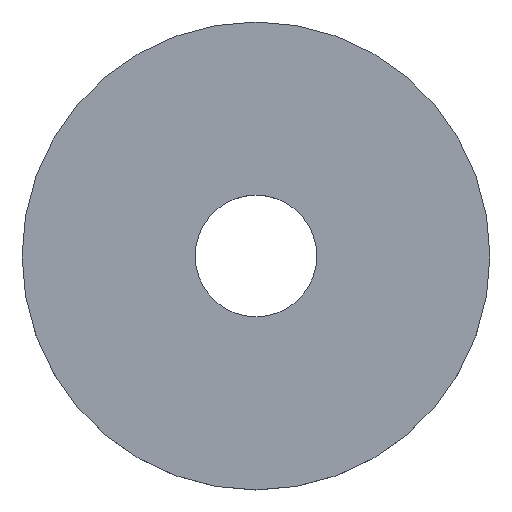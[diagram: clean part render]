
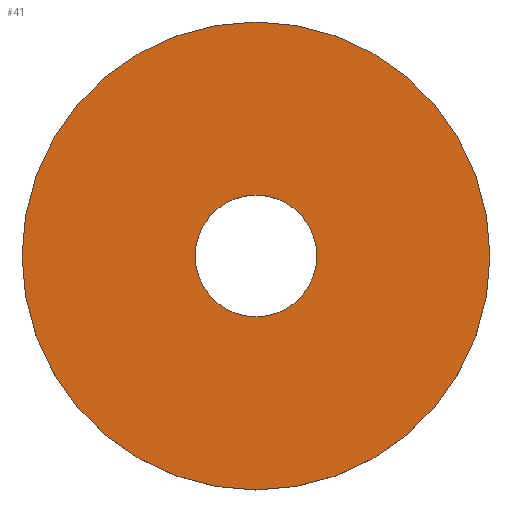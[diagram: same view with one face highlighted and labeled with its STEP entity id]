
A CAD part, top view. The second image highlights one B-rep face of the part: STEP entity #41.
In plain terms, the highlighted planar face has unit normal (0, 0, 1).
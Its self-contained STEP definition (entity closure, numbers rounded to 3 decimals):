
#4 = FACE_OUTER_BOUND ( 'NONE', #217, .T. ) ;
#31 = CARTESIAN_POINT ( 'NONE',  ( 2.6, 0., 0.75 ) ) ;
#37 = DIRECTION ( 'NONE',  ( 1., 0., 0. ) ) ;
#41 = ADVANCED_FACE ( 'NONE', ( #4, #180 ), #48, .T. ) ;
#44 = VERTEX_POINT ( 'NONE', #31 ) ;
#48 = PLANE ( 'NONE',  #179 ) ;
#54 = DIRECTION ( 'NONE',  ( 1., 0., 0. ) ) ;
#62 = AXIS2_PLACEMENT_3D ( 'NONE', #228, #241, #187 ) ;
#71 = DIRECTION ( 'NONE',  ( 0., 0., 1. ) ) ;
#88 = ORIENTED_EDGE ( 'NONE', *, *, #239, .F. ) ;
#91 = EDGE_CURVE ( 'NONE', #189, #44, #231, .T. ) ;
#95 = DIRECTION ( 'NONE',  ( 0., 0., 1. ) ) ;
#98 = CARTESIAN_POINT ( 'NONE',  ( 0., 0., 0.75 ) ) ;
#107 = EDGE_CURVE ( 'NONE', #207, #247, #205, .T. ) ;
#110 = EDGE_CURVE ( 'NONE', #247, #207, #236, .T. ) ;
#114 = AXIS2_PLACEMENT_3D ( 'NONE', #210, #71, #151 ) ;
#119 = DIRECTION ( 'NONE',  ( 0., 0., 1. ) ) ;
#120 = CIRCLE ( 'NONE', #214, 2.6 ) ;
#125 = CARTESIAN_POINT ( 'NONE',  ( 0., 0., 0.75 ) ) ;
#131 = CARTESIAN_POINT ( 'NONE',  ( 10., 0., 0.75 ) ) ;
#149 = DIRECTION ( 'NONE',  ( 1., 0., 0. ) ) ;
#151 = DIRECTION ( 'NONE',  ( 1., 0., 0. ) ) ;
#165 = ORIENTED_EDGE ( 'NONE', *, *, #107, .T. ) ;
#171 = ORIENTED_EDGE ( 'NONE', *, *, #91, .F. ) ;
#172 = CARTESIAN_POINT ( 'NONE',  ( -10., 0., 0.75 ) ) ;
#179 = AXIS2_PLACEMENT_3D ( 'NONE', #125, #220, #149 ) ;
#180 = FACE_BOUND ( 'NONE', #202, .T. ) ;
#186 = CARTESIAN_POINT ( 'NONE',  ( -2.6, 0., 0.75 ) ) ;
#187 = DIRECTION ( 'NONE',  ( 1., 0., 0. ) ) ;
#189 = VERTEX_POINT ( 'NONE', #186 ) ;
#202 = EDGE_LOOP ( 'NONE', ( #171, #88 ) ) ;
#205 = CIRCLE ( 'NONE', #233, 10. ) ;
#207 = VERTEX_POINT ( 'NONE', #131 ) ;
#210 = CARTESIAN_POINT ( 'NONE',  ( 0., 0., 0.75 ) ) ;
#214 = AXIS2_PLACEMENT_3D ( 'NONE', #230, #119, #54 ) ;
#217 = EDGE_LOOP ( 'NONE', ( #240, #165 ) ) ;
#220 = DIRECTION ( 'NONE',  ( 0., 0., 1. ) ) ;
#228 = CARTESIAN_POINT ( 'NONE',  ( 0., 0., 0.75 ) ) ;
#230 = CARTESIAN_POINT ( 'NONE',  ( 0., 0., 0.75 ) ) ;
#231 = CIRCLE ( 'NONE', #114, 2.6 ) ;
#233 = AXIS2_PLACEMENT_3D ( 'NONE', #98, #95, #37 ) ;
#236 = CIRCLE ( 'NONE', #62, 10. ) ;
#239 = EDGE_CURVE ( 'NONE', #44, #189, #120, .T. ) ;
#240 = ORIENTED_EDGE ( 'NONE', *, *, #110, .T. ) ;
#241 = DIRECTION ( 'NONE',  ( 0., 0., 1. ) ) ;
#247 = VERTEX_POINT ( 'NONE', #172 ) ;
